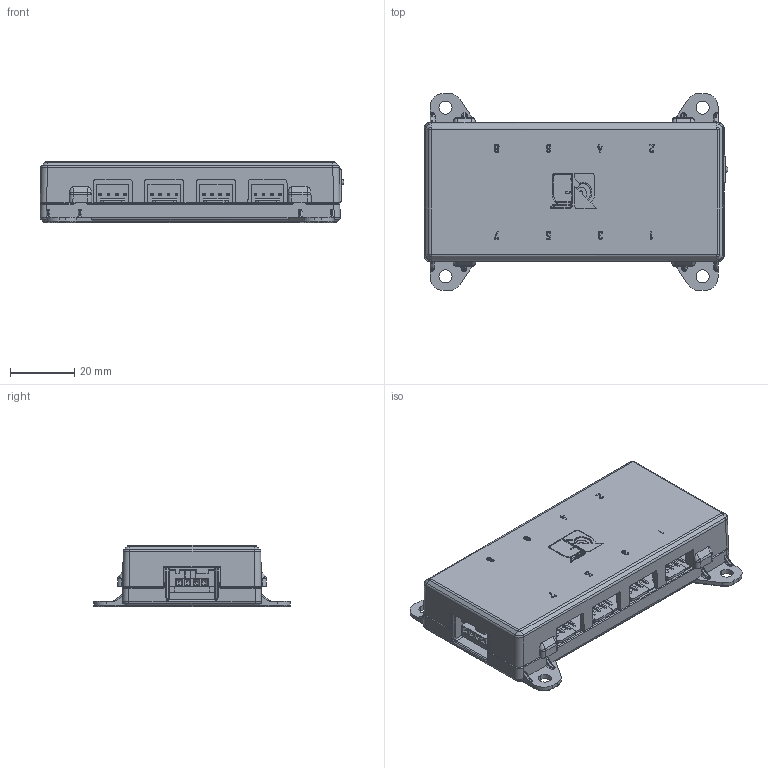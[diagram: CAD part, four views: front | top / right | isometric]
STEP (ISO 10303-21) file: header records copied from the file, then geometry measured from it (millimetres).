
FILE_DESCRIPTION(/* description */ ('140mm Desk Fan'),/* implementation_level */ '2;1');
FILE_NAME(/* name */ 'NV-FH2_public-CAD',/* time_stamp */ '2026-06-12T14:53:33+02:00',/* author */ ('Andreas'),/* organization */ ('Rascom'),/* preprocessor_version */ 'ST-DEVELOPER v18.102',/* originating_system */ 'Solid Edge',/* authorisation */ 'Unknown');
FILE_SCHEMA (('AUTOMOTIVE_DESIGN {1 0 10303 214 3 1 1}'));
Products named in the file (9): NV-FH2_public-CAD; NV-FH2-BASE_public; NV-FH2-TOPCOVER_public; NV-FH2_PCB_public; NV-FH2-FANCONNECTOR-FEMALE_public; NV-FH2-BARRELPLUGCONNECTOR_public; NV-FH2-BARRELPLUGCONNECTOR2_public; NV-FH2-FANCONNECTOR_public; NV-FH2_MAGNETPAD_public
Assembly tree (18 placements, depth 2):
  NV-FH2_public-CAD
    NV-FH2-BASE_public
    NV-FH2-TOPCOVER_public
    NV-FH2_PCB_public
    NV-FH2-FANCONNECTOR-FEMALE_public
    NV-FH2-BARRELPLUGCONNECTOR_public
    NV-FH2-BARRELPLUGCONNECTOR2_public
    NV-FH2-FANCONNECTOR_public  x8
    NV-FH2_MAGNETPAD_public  x4
Bounding box: 94.54 x 61.26 x 19 mm (x, y, z)
Volume: 27987.8 mm3; surface area: 40247.6 mm2
Topology: 18 solids, 18 shells, 2538 faces, 6387 edges, 3969 vertices
Faces by surface type: plane 1453, cylinder 685, torus 216, bspline 92, sphere 47, cone 45
Entity records: 67432 total; most frequent: CARTESIAN_POINT 20416, ORIENTED_EDGE 10294, DIRECTION 8444, EDGE_CURVE 5147, VERTEX_POINT 3246, LINE 3074, VECTOR 3074, AXIS2_PLACEMENT_3D 2685
